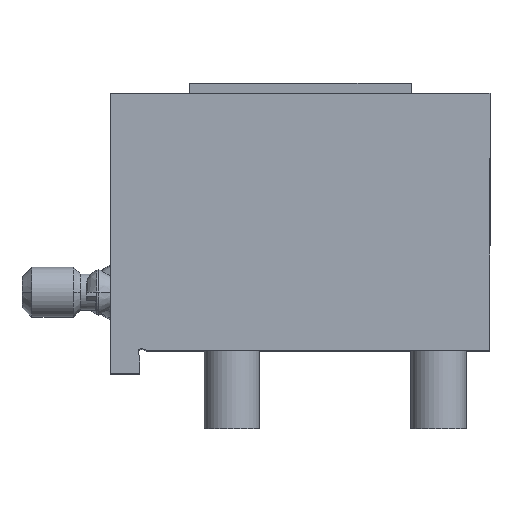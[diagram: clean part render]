
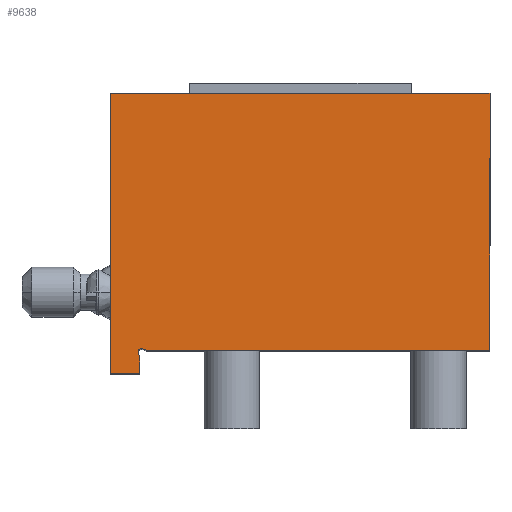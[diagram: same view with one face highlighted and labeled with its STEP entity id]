
A CAD part, top view. The second image highlights one B-rep face of the part: STEP entity #9638.
In plain terms, the highlighted planar face has unit normal (0, 0, 1).
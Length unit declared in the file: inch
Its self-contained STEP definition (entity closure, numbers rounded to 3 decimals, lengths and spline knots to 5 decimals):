
#148 = CARTESIAN_POINT ( 'NONE',  ( -1.13932, 2.52454, 4.2488 ) ) ;
#324 = EDGE_CURVE ( 'NONE', #2675, #2307, #9662, .T. ) ;
#402 = AXIS2_PLACEMENT_3D ( 'NONE', #6847, #3090, #6145 ) ;
#446 = EDGE_CURVE ( 'NONE', #2307, #8154, #2605, .T. ) ;
#647 = CIRCLE ( 'NONE', #8594, 0.03 ) ;
#672 = LINE ( 'NONE', #2121, #9646 ) ;
#841 = CARTESIAN_POINT ( 'NONE',  ( 2.11068, 2.52454, 4.2488 ) ) ;
#862 = CARTESIAN_POINT ( 'NONE',  ( -1.13932, 0.12454, 4.2488 ) ) ;
#984 = VECTOR ( 'NONE', #5169, 39.37008 ) ;
#1065 = CARTESIAN_POINT ( 'NONE',  ( -0.87432, 0.30954, 4.2488 ) ) ;
#1157 = DIRECTION ( 'NONE',  ( -1., 0., 0. ) ) ;
#1332 = CARTESIAN_POINT ( 'NONE',  ( -0.89889, 0.29233, 4.2488 ) ) ;
#1436 = FACE_OUTER_BOUND ( 'NONE', #5375, .T. ) ;
#1504 = ORIENTED_EDGE ( 'NONE', *, *, #8434, .T. ) ;
#1697 = VERTEX_POINT ( 'NONE', #9026 ) ;
#1733 = CARTESIAN_POINT ( 'NONE',  ( -1.13932, 0.12454, 4.2488 ) ) ;
#2121 = CARTESIAN_POINT ( 'NONE',  ( 2.11068, 0.32454, 4.2488 ) ) ;
#2140 = VECTOR ( 'NONE', #3164, 39.37008 ) ;
#2175 = CARTESIAN_POINT ( 'NONE',  ( -0.86406, 0.33773, 4.2488 ) ) ;
#2307 = VERTEX_POINT ( 'NONE', #6600 ) ;
#2472 = DIRECTION ( 'NONE',  ( 1., 0., 0. ) ) ;
#2473 = ORIENTED_EDGE ( 'NONE', *, *, #3933, .F. ) ;
#2483 = EDGE_CURVE ( 'NONE', #6895, #7878, #7777, .T. ) ;
#2605 = LINE ( 'NONE', #7128, #3876 ) ;
#2675 = VERTEX_POINT ( 'NONE', #4979 ) ;
#2884 = DIRECTION ( 'NONE',  ( 0., -1., 0. ) ) ;
#3090 = DIRECTION ( 'NONE',  ( 0., 0., -1. ) ) ;
#3164 = DIRECTION ( 'NONE',  ( 0.574, -0.819, 0. ) ) ;
#3389 = ORIENTED_EDGE ( 'NONE', *, *, #446, .F. ) ;
#3411 = DIRECTION ( 'NONE',  ( -0.94, 0.342, 0. ) ) ;
#3765 = VECTOR ( 'NONE', #7371, 39.37008 ) ;
#3767 = PLANE ( 'NONE',  #9680 ) ;
#3787 = LINE ( 'NONE', #148, #5062 ) ;
#3832 = DIRECTION ( 'NONE',  ( -1., 0., 0. ) ) ;
#3871 = EDGE_CURVE ( 'NONE', #5233, #4086, #7223, .T. ) ;
#3876 = VECTOR ( 'NONE', #3411, 39.37008 ) ;
#3933 = EDGE_CURVE ( 'NONE', #6895, #5233, #8581, .T. ) ;
#4086 = VERTEX_POINT ( 'NONE', #8370 ) ;
#4288 = ORIENTED_EDGE ( 'NONE', *, *, #324, .F. ) ;
#4561 = CARTESIAN_POINT ( 'NONE',  ( -1.13932, 0.32454, 4.2488 ) ) ;
#4979 = CARTESIAN_POINT ( 'NONE',  ( 2.11068, 0.32454, 4.2488 ) ) ;
#5009 = ORIENTED_EDGE ( 'NONE', *, *, #8603, .F. ) ;
#5062 = VECTOR ( 'NONE', #2472, 39.37008 ) ;
#5169 = DIRECTION ( 'NONE',  ( -1., 0., 0. ) ) ;
#5233 = VERTEX_POINT ( 'NONE', #8402 ) ;
#5361 = ORIENTED_EDGE ( 'NONE', *, *, #2483, .T. ) ;
#5375 = EDGE_LOOP ( 'NONE', ( #2473, #5361, #1504, #3389, #4288, #6854, #5592, #5009, #8550, #9788 ) ) ;
#5592 = ORIENTED_EDGE ( 'NONE', *, *, #8617, .F. ) ;
#6145 = DIRECTION ( 'NONE',  ( -1., 0., 0. ) ) ;
#6600 = CARTESIAN_POINT ( 'NONE',  ( -0.82782, 0.32454, 4.2488 ) ) ;
#6847 = CARTESIAN_POINT ( 'NONE',  ( -0.87432, 0.30954, 4.2488 ) ) ;
#6854 = ORIENTED_EDGE ( 'NONE', *, *, #8113, .F. ) ;
#6877 = CARTESIAN_POINT ( 'NONE',  ( -1.13932, 0.32454, 4.2488 ) ) ;
#6895 = VERTEX_POINT ( 'NONE', #1332 ) ;
#6930 = DIRECTION ( 'NONE',  ( 0., 1., 0. ) ) ;
#6966 = CARTESIAN_POINT ( 'NONE',  ( -0.89889, 0.29233, 4.2488 ) ) ;
#7053 = VERTEX_POINT ( 'NONE', #1733 ) ;
#7128 = CARTESIAN_POINT ( 'NONE',  ( -0.82782, 0.32454, 4.2488 ) ) ;
#7223 = LINE ( 'NONE', #8133, #3765 ) ;
#7304 = VECTOR ( 'NONE', #3832, 39.37008 ) ;
#7371 = DIRECTION ( 'NONE',  ( 0., -1., 0. ) ) ;
#7613 = DIRECTION ( 'NONE',  ( -1., 0., 0. ) ) ;
#7633 = LINE ( 'NONE', #862, #7304 ) ;
#7679 = LINE ( 'NONE', #6877, #9085 ) ;
#7777 = CIRCLE ( 'NONE', #402, 0.03 ) ;
#7878 = VERTEX_POINT ( 'NONE', #8520 ) ;
#8043 = DIRECTION ( 'NONE',  ( 0., 0., -1. ) ) ;
#8113 = EDGE_CURVE ( 'NONE', #9738, #2675, #672, .T. ) ;
#8133 = CARTESIAN_POINT ( 'NONE',  ( -0.88932, 0.32454, 4.2488 ) ) ;
#8154 = VERTEX_POINT ( 'NONE', #2175 ) ;
#8370 = CARTESIAN_POINT ( 'NONE',  ( -0.88932, 0.12454, 4.2488 ) ) ;
#8402 = CARTESIAN_POINT ( 'NONE',  ( -0.88932, 0.27865, 4.2488 ) ) ;
#8434 = EDGE_CURVE ( 'NONE', #7878, #8154, #647, .T. ) ;
#8520 = CARTESIAN_POINT ( 'NONE',  ( -0.90432, 0.30954, 4.2488 ) ) ;
#8550 = ORIENTED_EDGE ( 'NONE', *, *, #8649, .F. ) ;
#8581 = LINE ( 'NONE', #6966, #2140 ) ;
#8594 = AXIS2_PLACEMENT_3D ( 'NONE', #1065, #8043, #1157 ) ;
#8603 = EDGE_CURVE ( 'NONE', #7053, #1697, #7679, .T. ) ;
#8617 = EDGE_CURVE ( 'NONE', #1697, #9738, #3787, .T. ) ;
#8649 = EDGE_CURVE ( 'NONE', #4086, #7053, #7633, .T. ) ;
#9026 = CARTESIAN_POINT ( 'NONE',  ( -1.13932, 2.52454, 4.2488 ) ) ;
#9085 = VECTOR ( 'NONE', #6930, 39.37008 ) ;
#9638 = ADVANCED_FACE ( 'NONE', ( #1436 ), #3767, .F. ) ;
#9646 = VECTOR ( 'NONE', #2884, 39.37008 ) ;
#9662 = LINE ( 'NONE', #9865, #984 ) ;
#9680 = AXIS2_PLACEMENT_3D ( 'NONE', #4561, #9910, #7613 ) ;
#9738 = VERTEX_POINT ( 'NONE', #841 ) ;
#9788 = ORIENTED_EDGE ( 'NONE', *, *, #3871, .F. ) ;
#9865 = CARTESIAN_POINT ( 'NONE',  ( 2.11068, 0.32454, 4.2488 ) ) ;
#9910 = DIRECTION ( 'NONE',  ( 0., 0., -1. ) ) ;
